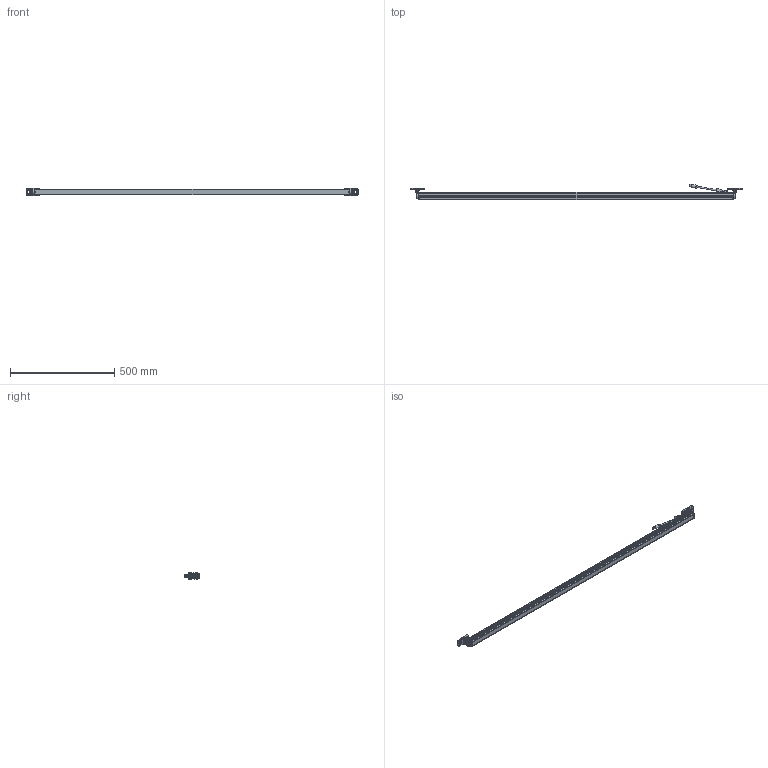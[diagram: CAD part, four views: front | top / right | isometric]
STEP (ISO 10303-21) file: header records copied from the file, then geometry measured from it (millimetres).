
FILE_DESCRIPTION((''),'2;1');
FILE_NAME('M:\INVENTORjob\Konstruktion\LV6036\Freigabe\Bauraummodelle\Geräte\stp\host - guest\MLC_R_1500 G.stp','2014-04-11T13:10:46',('seisen'),(''),'Autodesk Inventor 2009','Autodesk Inventor 2009','');
FILE_SCHEMA(('AUTOMOTIVE_DESIGN { 1 0 10303 214 1 1 1 1 }'));
Length unit declared in the file: millimetre
Products named in the file (17): MLC_R_1500 G; MLC_R_1500_G_; Endkappe_T; Profil MLC 1500; Endkappe_R; BT-R_Zubehör; Wandteil_Zubehör; Klemmring_BT-R_Zubehör; DIN 912 - ersetzt durch DIN EN ISO 4762 M5 x 12; DIN 934 - ersetzt durch DIN EN 24032/28673/28674 M5; DIN 6912 M5 x 30; Zylinder_Zubehör; DIN 7991 - ersetzt durch DIN EN ISO 10642 M6  x  10; Nutenstein M6; Anschluss input komplett; Tuellengehaeuse; CB-M12-500E-8FTP input
Assembly tree (22 placements, depth 3):
  MLC_R_1500 G
    MLC_R_1500_G_
      Endkappe_T
      Profil MLC 1500
      Endkappe_R
    BT-R_Zubehör  x2
      Wandteil_Zubehör
      Klemmring_BT-R_Zubehör
      DIN 912 - ersetzt durch DIN EN ISO 4762 M5 x 12
      DIN 934 - ersetzt durch DIN EN 24032/28673/28674 M5
      DIN 6912 M5 x 30
    Zylinder_Zubehör  x2
    DIN 7991 - ersetzt durch DIN EN ISO 10642 M6  x  10  x2
    Nutenstein M6  x2
    Anschluss input komplett
      Tuellengehaeuse
      CB-M12-500E-8FTP input
Bounding box: 1594.91 x 74.35 x 34 mm (x, y, z)
Volume: 1419165.8 mm3; surface area: 276017.9 mm2
Topology: 26 solids, 26 shells, 809 faces, 2088 edges, 1318 vertices
Faces by surface type: plane 357, cylinder 255, bspline 83, cone 48, torus 45, sphere 21
Full cylindrical faces by diameter (mm): 2.5 x2, 4.65 x2, 5 x12, 5.18 x2, 5.55 x2, 6 x4, 6.2 x10, 8.5 x5, 8.6 x2, 11.34 x2, 12 x3, 14.5 x1
Entity records: 12147 total; most frequent: CARTESIAN_POINT 3647, DIRECTION 1662, ORIENTED_EDGE 1644, EDGE_CURVE 822, AXIS2_PLACEMENT_3D 623, VERTEX_POINT 553, EDGE_LOOP 427, VECTOR 416
